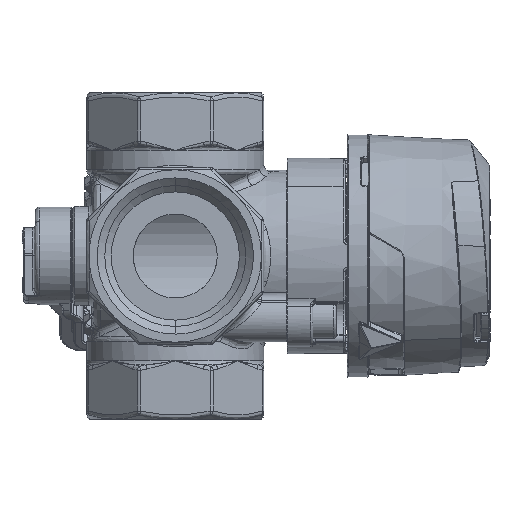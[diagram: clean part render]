
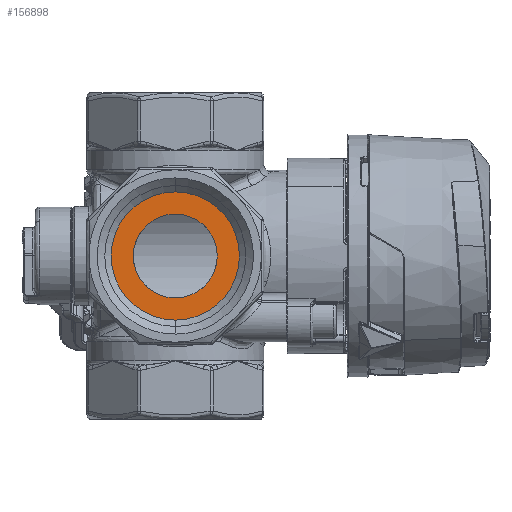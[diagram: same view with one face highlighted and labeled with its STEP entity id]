
A CAD part, left-side view. The second image highlights one B-rep face of the part: STEP entity #156898.
In plain terms, the highlighted planar face has unit normal (-1, 0, 0) as drawn and (0, 0, 1) by its records, which use the part's own axes.
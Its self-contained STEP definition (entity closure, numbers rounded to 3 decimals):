
#4164 = EDGE_CURVE ( 'NONE', #45050, #34489, #62070, .T. ) ;
#11217 = DIRECTION ( 'NONE',  ( 0., 0., 1. ) ) ;
#11266 = EDGE_CURVE ( 'NONE', #34489, #45050, #346228, .T. ) ;
#24308 = CARTESIAN_POINT ( 'NONE',  ( 15.928, 19.423, 16.493 ) ) ;
#34489 = VERTEX_POINT ( 'NONE', #325468 ) ;
#34639 = VERTEX_POINT ( 'NONE', #75709 ) ;
#41866 = DIRECTION ( 'NONE',  ( 0., -1., 0. ) ) ;
#45050 = VERTEX_POINT ( 'NONE', #241660 ) ;
#45080 = ORIENTED_EDGE ( 'NONE', *, *, #11266, .T. ) ;
#62070 = CIRCLE ( 'NONE', #306875, 13.75 ) ;
#63721 = CIRCLE ( 'NONE', #265599, 9. ) ;
#64719 = EDGE_CURVE ( 'NONE', #106406, #34639, #63721, .T. ) ;
#75709 = CARTESIAN_POINT ( 'NONE',  ( 15.928, 28.423, 16.493 ) ) ;
#77766 = CARTESIAN_POINT ( 'NONE',  ( 15.928, 19.423, 16.493 ) ) ;
#79945 = DIRECTION ( 'NONE',  ( 0., -1., 0. ) ) ;
#104455 = EDGE_LOOP ( 'NONE', ( #205195, #45080 ) ) ;
#106406 = VERTEX_POINT ( 'NONE', #255281 ) ;
#114365 = DIRECTION ( 'NONE',  ( 0., 0., 1. ) ) ;
#115056 = FACE_BOUND ( 'NONE', #265655, .T. ) ;
#151094 = EDGE_CURVE ( 'NONE', #34639, #106406, #278219, .T. ) ;
#151220 = DIRECTION ( 'NONE',  ( 0., -1., 0. ) ) ;
#154429 = DIRECTION ( 'NONE',  ( 0., -1., 0. ) ) ;
#156898 = ADVANCED_FACE ( 'NONE', ( #115056, #231813 ), #321960, .T. ) ;
#158757 = CARTESIAN_POINT ( 'NONE',  ( 5.916, 28.847, 16.493 ) ) ;
#181777 = DIRECTION ( 'NONE',  ( 0., 0., 1. ) ) ;
#205195 = ORIENTED_EDGE ( 'NONE', *, *, #4164, .T. ) ;
#231813 = FACE_OUTER_BOUND ( 'NONE', #104455, .T. ) ;
#233141 = CARTESIAN_POINT ( 'NONE',  ( 15.928, 19.423, 16.493 ) ) ;
#241660 = CARTESIAN_POINT ( 'NONE',  ( 15.928, 5.673, 16.493 ) ) ;
#242144 = AXIS2_PLACEMENT_3D ( 'NONE', #24308, #114365, #79945 ) ;
#252021 = DIRECTION ( 'NONE',  ( 0., -1., 0. ) ) ;
#253484 = AXIS2_PLACEMENT_3D ( 'NONE', #77766, #311545, #252021 ) ;
#255281 = CARTESIAN_POINT ( 'NONE',  ( 15.928, 10.423, 16.493 ) ) ;
#265599 = AXIS2_PLACEMENT_3D ( 'NONE', #233141, #271401, #154429 ) ;
#265655 = EDGE_LOOP ( 'NONE', ( #282988, #351894 ) ) ;
#271401 = DIRECTION ( 'NONE',  ( 0., 0., -1. ) ) ;
#278219 = CIRCLE ( 'NONE', #253484, 9. ) ;
#282988 = ORIENTED_EDGE ( 'NONE', *, *, #151094, .T. ) ;
#306875 = AXIS2_PLACEMENT_3D ( 'NONE', #361925, #11217, #41866 ) ;
#311545 = DIRECTION ( 'NONE',  ( 0., 0., -1. ) ) ;
#321960 = PLANE ( 'NONE',  #375636 ) ;
#325468 = CARTESIAN_POINT ( 'NONE',  ( 15.928, 33.173, 16.493 ) ) ;
#346228 = CIRCLE ( 'NONE', #242144, 13.75 ) ;
#351894 = ORIENTED_EDGE ( 'NONE', *, *, #64719, .T. ) ;
#361925 = CARTESIAN_POINT ( 'NONE',  ( 15.928, 19.423, 16.493 ) ) ;
#375636 = AXIS2_PLACEMENT_3D ( 'NONE', #158757, #181777, #151220 ) ;
